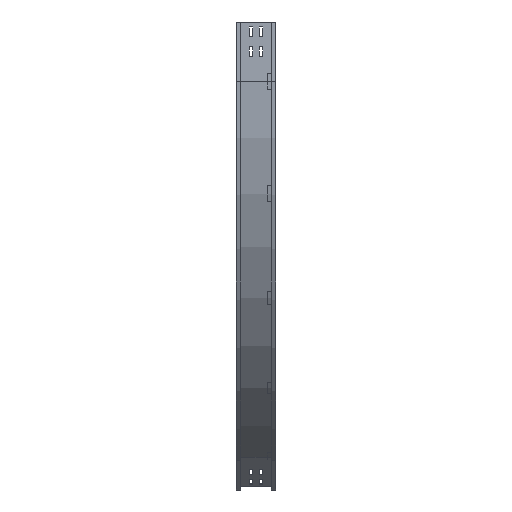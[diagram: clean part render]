
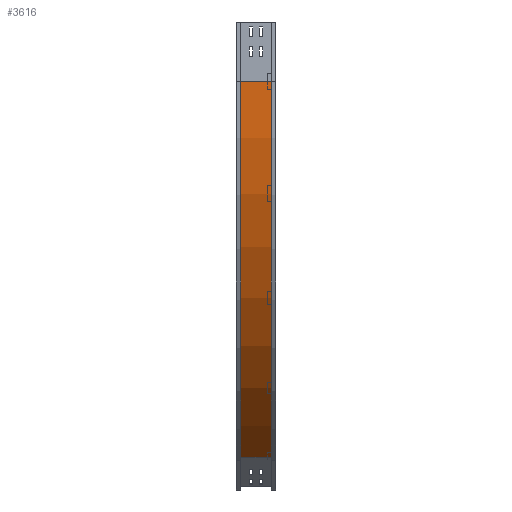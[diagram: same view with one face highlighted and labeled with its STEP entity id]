
A CAD part, left-side view. The second image highlights one B-rep face of the part: STEP entity #3616.
In plain terms, the highlighted cylindrical face has radius 1100 mm (diameter 2200 mm), a partial arc.
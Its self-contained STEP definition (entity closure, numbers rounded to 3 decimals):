
#168 = EDGE_CURVE ( 'NONE', #3819, #2121, #350, .T. ) ;
#202 = ORIENTED_EDGE ( 'NONE', *, *, #884, .T. ) ;
#257 = AXIS2_PLACEMENT_3D ( 'NONE', #2827, #1114, #1088 ) ;
#350 = LINE ( 'NONE', #1764, #3498 ) ;
#884 = EDGE_CURVE ( 'NONE', #2063, #2189, #1789, .T. ) ;
#1023 = ORIENTED_EDGE ( 'NONE', *, *, #3602, .F. ) ;
#1047 = VECTOR ( 'NONE', #3531, 1000. ) ;
#1057 = CARTESIAN_POINT ( 'NONE',  ( 559., 12., -1102.628 ) ) ;
#1077 = DIRECTION ( 'NONE',  ( 0., -1., 0. ) ) ;
#1088 = DIRECTION ( 'NONE',  ( -1., 0., 0. ) ) ;
#1114 = DIRECTION ( 'NONE',  ( 0., -1., 0. ) ) ;
#1369 = EDGE_CURVE ( 'NONE', #3819, #2063, #1713, .T. ) ;
#1397 = CARTESIAN_POINT ( 'NONE',  ( 559., 88., -1102.628 ) ) ;
#1713 = CIRCLE ( 'NONE', #257, 1100. ) ;
#1764 = CARTESIAN_POINT ( 'NONE',  ( 9., 12., -150. ) ) ;
#1789 = LINE ( 'NONE', #1057, #1047 ) ;
#1881 = DIRECTION ( 'NONE',  ( -1., 0., 0. ) ) ;
#2063 = VERTEX_POINT ( 'NONE', #1397 ) ;
#2121 = VERTEX_POINT ( 'NONE', #4152 ) ;
#2189 = VERTEX_POINT ( 'NONE', #2833 ) ;
#2421 = ORIENTED_EDGE ( 'NONE', *, *, #1369, .T. ) ;
#2466 = AXIS2_PLACEMENT_3D ( 'NONE', #2531, #4037, #2935 ) ;
#2531 = CARTESIAN_POINT ( 'NONE',  ( 1109., 0., -150. ) ) ;
#2684 = CIRCLE ( 'NONE', #4128, 1100. ) ;
#2733 = DIRECTION ( 'NONE',  ( 0., -1., 0. ) ) ;
#2827 = CARTESIAN_POINT ( 'NONE',  ( 1109., 88., -150. ) ) ;
#2833 = CARTESIAN_POINT ( 'NONE',  ( 559., 12., -1102.628 ) ) ;
#2866 = FACE_OUTER_BOUND ( 'NONE', #3805, .T. ) ;
#2911 = CARTESIAN_POINT ( 'NONE',  ( 1109., 12., -150. ) ) ;
#2935 = DIRECTION ( 'NONE',  ( 0., 0., -1. ) ) ;
#3483 = CARTESIAN_POINT ( 'NONE',  ( 9., 88., -150. ) ) ;
#3498 = VECTOR ( 'NONE', #2733, 1000. ) ;
#3531 = DIRECTION ( 'NONE',  ( 0., -1., 0. ) ) ;
#3602 = EDGE_CURVE ( 'NONE', #2121, #2189, #2684, .T. ) ;
#3616 = ADVANCED_FACE ( 'NONE', ( #2866 ), #4248, .T. ) ;
#3805 = EDGE_LOOP ( 'NONE', ( #1023, #3829, #2421, #202 ) ) ;
#3819 = VERTEX_POINT ( 'NONE', #3483 ) ;
#3829 = ORIENTED_EDGE ( 'NONE', *, *, #168, .F. ) ;
#4037 = DIRECTION ( 'NONE',  ( 0., -1., 0. ) ) ;
#4128 = AXIS2_PLACEMENT_3D ( 'NONE', #2911, #1077, #1881 ) ;
#4152 = CARTESIAN_POINT ( 'NONE',  ( 9., 12., -150. ) ) ;
#4248 = CYLINDRICAL_SURFACE ( 'NONE', #2466, 1100. ) ;
